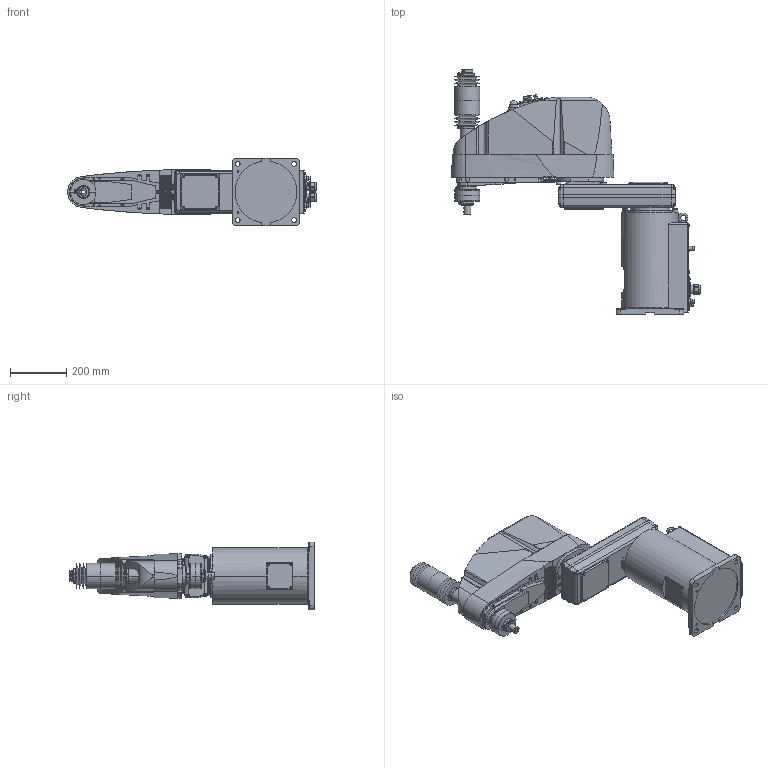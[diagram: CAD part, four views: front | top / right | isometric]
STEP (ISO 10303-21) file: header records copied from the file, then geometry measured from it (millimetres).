
FILE_DESCRIPTION( ( '' ), '1' );
FILE_NAME( '//expscmdclustefs.cadenas.external/client_exchange/iodir/jobs/output/wkb51511193_no0/STEP/G10_651C_2_14b.stp', '2012-11-22T15:08:24', ( '' ), ( '' ), ' ', ' ', ' ' );
FILE_SCHEMA( ( 'automotive_design' ) );
Length unit declared in the file: millimetre
Products named in the file (8): 1; 2; 3; 4; 5; 6; 7; 8
Bounding box: 884.5 x 870.5 x 240 mm (x, y, z)
Volume: 39287920.2 mm3; surface area: 1576187.4 mm2
Topology: 8 solids, 9 shells, 2152 faces, 5280 edges, 3423 vertices
Faces by surface type: plane 1174, cylinder 694, cone 238, torus 45, sphere 1
Entity records: 126645 total; most frequent: CARTESIAN_POINT 13558, DIRECTION 11195, STYLED_ITEM 10859, PRESENTATION_STYLE_ASSIGNMENT 10859, COLOUR_RGB 10859, ORIENTED_EDGE 10552, EDGE_CURVE 5276, CURVE_STYLE 5276
